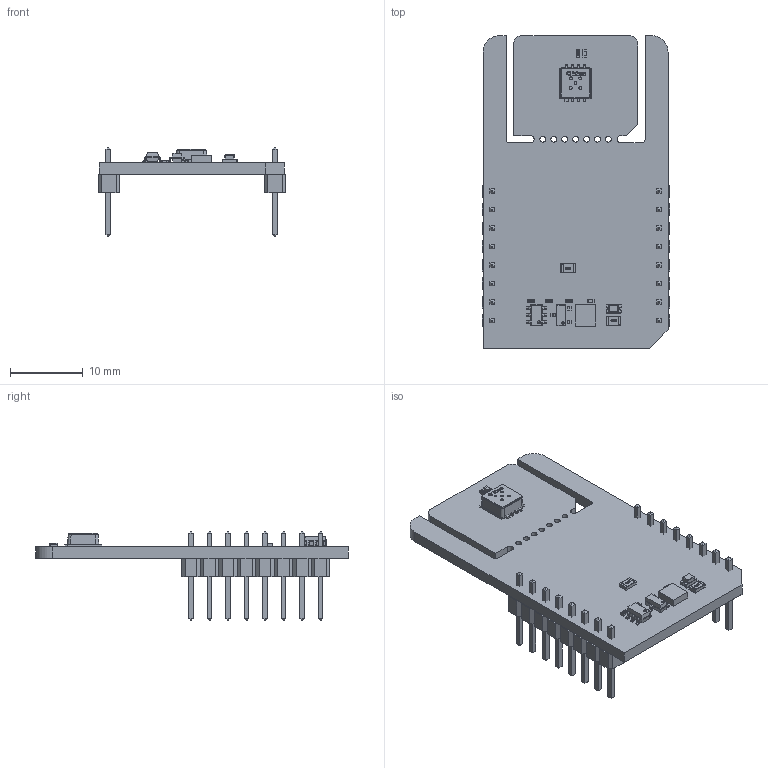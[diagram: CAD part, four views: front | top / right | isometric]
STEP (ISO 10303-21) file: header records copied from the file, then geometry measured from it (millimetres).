
FILE_DESCRIPTION(('Open CASCADE Model'),'2;1');
FILE_NAME('Open CASCADE Shape Model','2025-12-25T11:39:22',('Author'),( 'Open CASCADE'),'Open CASCADE STEP processor 6.8','Open CASCADE 6.8' ,'Unknown');
FILE_SCHEMA(('AUTOMOTIVE_DESIGN { 1 0 10303 214 1 1 1 1 }'));
Length unit declared in the file: millimetre
Products named in the file (31): PCB; Board; U3; PG-DFN-8-1_Z8B00188260_V18_3D; MBD1; Header_1x8; Free-Models; 1240637040; User_Library-PinHeaderX5-1_PinHeaderX5_Body_1; User_Library-PinHeaderX5-1_PinHeaderX5_Pins_1; JP1; User_Library-R_0805; U2; User_Library-SOT23-6-2; U1; 1081500728; Extruded; R4; User_Library-R_0402; R3; R2; R1; Q1; SOT23-3; LD1; led_0805_green; C1; User_Library-SMD_CAPACITOR0402; C2; R5
Assembly tree (37 placements, depth 7):
  PCB
    Board
    U3
      PG-DFN-8-1_Z8B00188260_V18_3D
    MBD1
      Header_1x8  x2
        PCB
          Free-Models
            1240637040  x2
              User_Library-PinHeaderX5-1_PinHeaderX5_Body_1
              User_Library-PinHeaderX5-1_PinHeaderX5_Pins_1
    JP1
      User_Library-R_0805
    U2
      User_Library-SOT23-6-2
    U1
      1081500728
        Extruded
    R4
      User_Library-R_0402
    R3
      User_Library-R_0402
    R2
      User_Library-R_0402
    R1
      User_Library-R_0805
    Q1
      SOT23-3
    LD1
      led_0805_green
    C1
      User_Library-SMD_CAPACITOR0402
    C2
      User_Library-SMD_CAPACITOR0402
    R5
      User_Library-R_0402
Bounding box: 25.78 x 42.93 x 12.19 mm (x, y, z)
Volume: 2154 mm3; surface area: 4033.8 mm2
Topology: 70 solids, 71 shells, 1594 faces, 3950 edges, 2528 vertices
Faces by surface type: plane 1220, bspline 206, cylinder 144, sphere 24
Full cylindrical faces by diameter (mm): 0.085 x1, 0.174 x1, 0.3 x8, 0.4 x5, 0.8 x7
Entity records: 32460 total; most frequent: CARTESIAN_POINT 9104, ORIENTED_EDGE 4134, DIRECTION 3742, EDGE_CURVE 2067, LINE 1610, VECTOR 1610, VERTEX_POINT 1334, AXIS2_PLACEMENT_3D 1066
